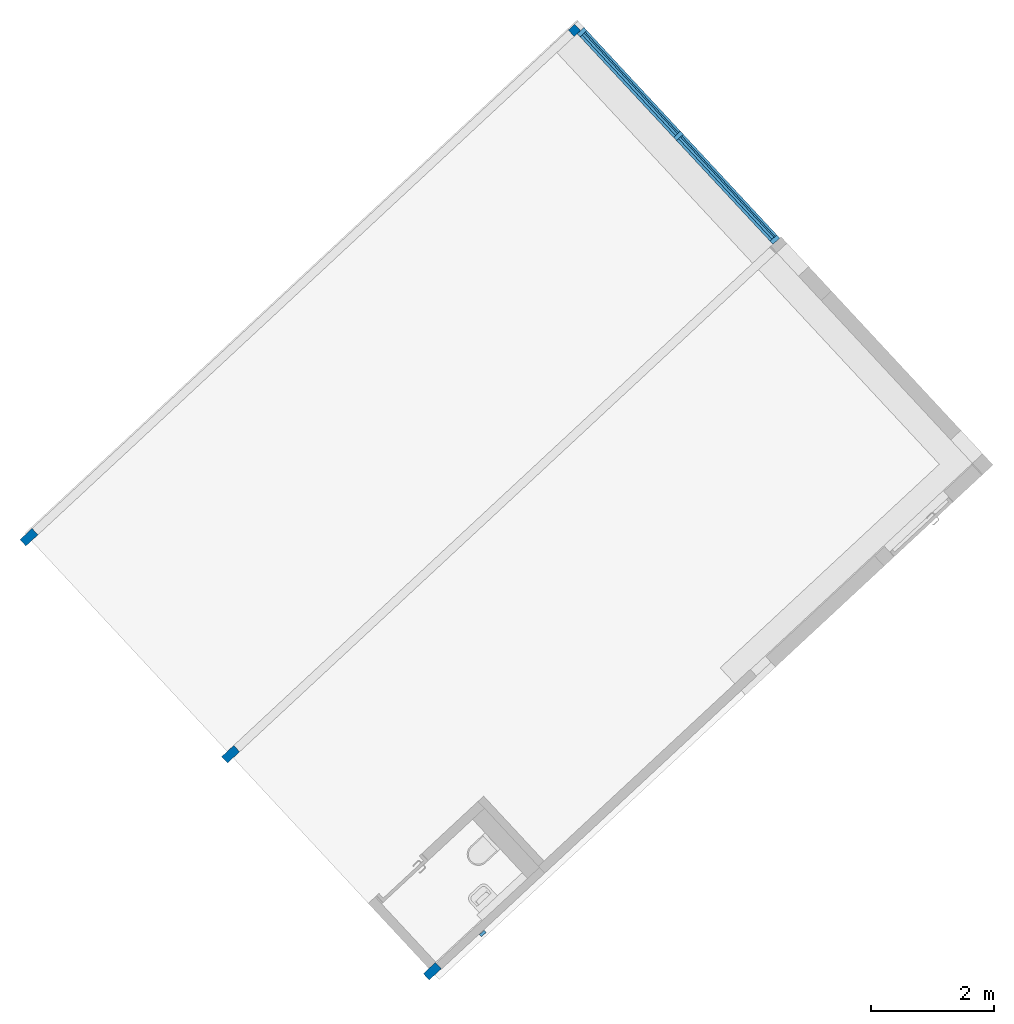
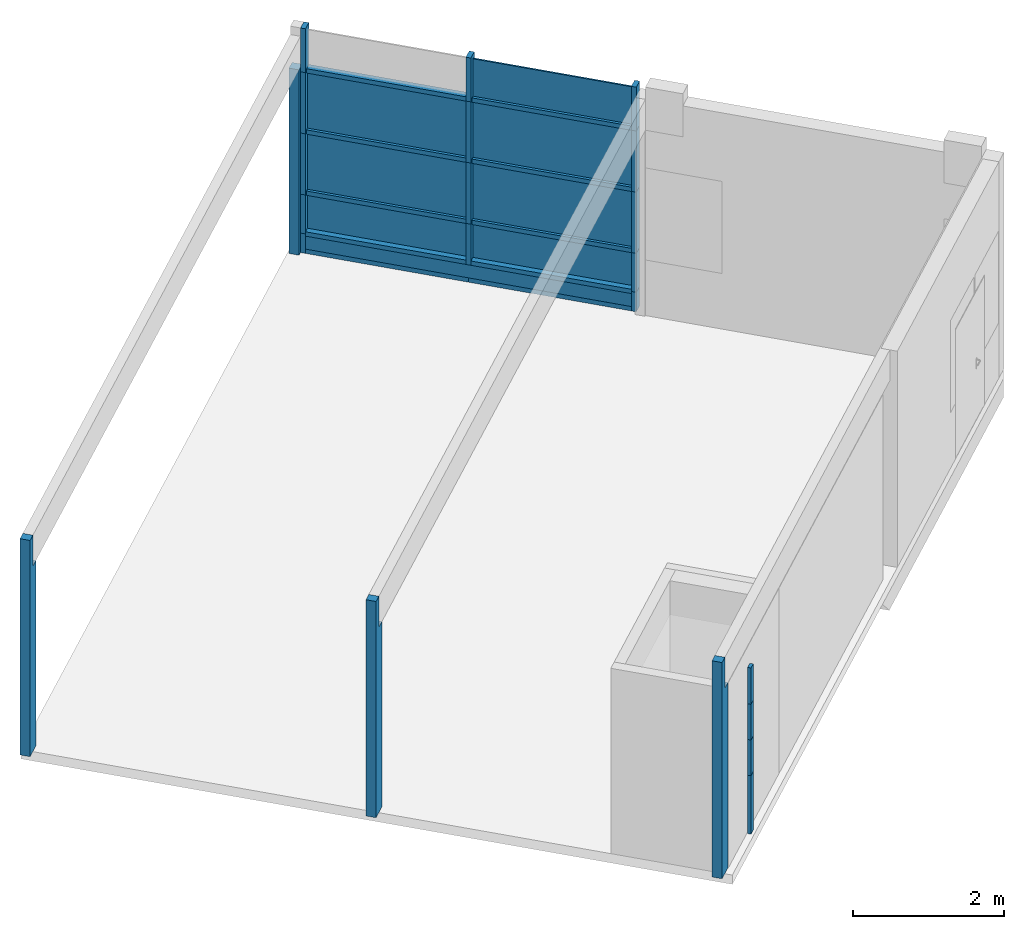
# One storey, part 2 of 7: 28 members, 8 plates, 4 columns, 2 elements without a shape of their own.
"""IFC2X3 building model written with IfcOpenShell, lengths in millimetres."""

from ifc_helpers import new_model, entity, si_unit, converted_unit, derived_unit, direction, frame, frame_2d, origin, origin_with_axes, origin_2d_with_axis, place, context, subcontext, project, spatial, rectangle, extrude, faceted_brep, source, transform, mapped, material, type_object, element, aggregate, save


model = new_model("IFC2X3")

# Units and contexts
model_context = context("Model", 3, precision=0.01, world=origin(), true_north=direction((6.12323399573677e-17, 1.0)))
plan_context = context("Plan", 3, precision=1e-05, world=origin_with_axes())
body_context = subcontext(model_context, "Body", "Model", "MODEL_VIEW")
ifc_project = project(units=[converted_unit("PLANEANGLEUNIT", "DEGREE", entity("IfcPositiveLengthMeasure", 0.0174532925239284), si_unit("PLANEANGLEUNIT", "RADIAN"), dimensions=[0, 0, 0, 0, 0, 0, 0]), si_unit("AREAUNIT", "SQUARE_METRE"), si_unit("LENGTHUNIT", "METRE", prefix="MILLI"), si_unit("MASSUNIT", "GRAM", prefix="KILO"), si_unit("POWERUNIT", "WATT"), si_unit("PRESSUREUNIT", "PASCAL", prefix="KILO"), si_unit("FORCEUNIT", "NEWTON", prefix="KILO"), si_unit("ELECTRICVOLTAGEUNIT", "VOLT"), si_unit("ELECTRICCURRENTUNIT", "AMPERE"), si_unit("THERMODYNAMICTEMPERATUREUNIT", "DEGREE_CELSIUS"), si_unit("TIMEUNIT", "SECOND"), si_unit("VOLUMEUNIT", "CUBIC_METRE"), derived_unit("LINEARVELOCITYUNIT", [(si_unit("LENGTHUNIT", "METRE"), 1), (si_unit("TIMEUNIT", "SECOND"), -1)]), derived_unit("VOLUMETRICFLOWRATEUNIT", [(si_unit("VOLUMEUNIT", "CUBIC_METRE"), 1), (si_unit("TIMEUNIT", "SECOND"), -1)]), derived_unit("THERMALTRANSMITTANCEUNIT", [(si_unit("POWERUNIT", "WATT"), 1), (si_unit("THERMODYNAMICTEMPERATUREUNIT", "KELVIN"), -1), (si_unit("AREAUNIT", "SQUARE_METRE"), -1)]), derived_unit("SOUNDPRESSUREUNIT", [(si_unit("PRESSUREUNIT", "PASCAL"), 1)])], contexts=[model_context, plan_context])

# Site, building, storey
site_placement = place(None, frame((159880.25068742, 140851.808625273, 0.0), z_axis=(0.0, 0.0, 1.0), x_axis=(-0.680735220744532, 0.732529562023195, 0.0)))
site = spatial("IfcSite", under=ifc_project, at=site_placement, Name="Default", CompositionType="ELEMENT")
building_placement = place(site_placement, origin_with_axes())
building = spatial("IfcBuilding", under=site, at=building_placement, CompositionType="ELEMENT")
storey_placement = place(building_placement, frame((0.0, 0.0, 4900.0), z_axis=(0.0, 0.0, 1.0), x_axis=(1.0, 0.0, 0.0)))
storey = spatial("IfcBuildingStorey", under=building, at=storey_placement, Name="001-01", CompositionType="ELEMENT", Elevation=4900.0)

# Columns
ifc_material_1 = material(Name="TIMBER/C30")
column_type_1 = type_object("IfcColumnType", Name="140*140:140*140", PredefinedType="COLUMN", material=ifc_material_1)
shared_shape_1 = source(origin(), body_context, "Body", "SweptSolid", [
    extrude(rectangle(XDim=140.000000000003, YDim=140.0, at=origin_2d_with_axis()), frame((57600.0000007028, 0.0, 4900.00000000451)), (0.0, 0.0, 1.0), 3000.0),
])
column_1_placement = place(storey_placement, frame((0.0, 0.0, -4900.0), z_axis=(0.0, 0.0, 1.0), x_axis=(1.0, 0.0, 0.0)))
element("IfcColumn", 1, at=column_1_placement, inside=storey, type_object=column_type_1, material=ifc_material_1, Name="140*140:140*140", ObjectType="140*140:140*140", context=body_context, shape_type="MappedRepresentation", body=[
    mapped(shared_shape_1, transform((0.0, 0.0, 0.0), scale=1.0)),
])
column_type_2 = type_object("IfcColumnType", Name="267*140 51386:267*140 51386", PredefinedType="COLUMN", material=ifc_material_1)
column_2_placement = place(storey_placement, frame((0.0, 0.0, -4900.0), z_axis=(0.0, 0.0, 1.0), x_axis=(1.0, 0.0, 0.0)))
element("IfcColumn", 2, at=column_2_placement, inside=storey, type_object=column_type_2, Name="267*140 51386:267*140 51386", ObjectType="267*140 51386:267*140 51386", context=body_context, shape_type="Brep", body=[
    faceted_brep([(47930.0000007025, 11931.4999999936, 4900.00000000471), (48070.0000007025, 11931.4999999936, 4900.00000000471), (48070.0000007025, 12198.4999999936, 4900.00000000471), (47930.0000007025, 12198.4999999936, 4900.00000000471), (48070.0000007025, 12198.4999999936, 8400.0), (47930.0000007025, 12198.4999999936, 8400.0), (47930.0000007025, 12069.999999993, 8400.0), (48070.0000007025, 12069.999999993, 8400.0), (48070.0000007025, 12069.999999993, 7899.9999435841), (47930.0000007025, 12069.999999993, 7899.9999435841), (48070.0000007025, 11931.4999999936, 7899.9999435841), (47930.0000007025, 11931.4999999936, 7899.9999435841)], [[[0, 1, 2, 3]], [[4, 5, 3, 2]], [[6, 7, 8, 9]], [[9, 8, 10, 11]], [[11, 10, 1, 0]], [[5, 6, 9, 11, 0, 3]], [[7, 4, 2, 1, 10, 8]], [[7, 6, 5, 4]]], orient=[[False], [False], [False], [False], [False], [False], [False], [False]]),
])
column_type_3 = type_object("IfcColumnType", Name="267*140 51386:267*140 51386", PredefinedType="COLUMN", material=ifc_material_1)
column_3_placement = place(storey_placement, frame((0.0, 0.0, -4900.0), z_axis=(0.0, 0.0, 1.0), x_axis=(1.0, 0.0, 0.0)))
element("IfcColumn", 3, at=column_3_placement, inside=storey, type_object=column_type_3, Name="267*140 51386:267*140 51386", ObjectType="267*140 51386:267*140 51386", context=body_context, shape_type="Brep", body=[
    faceted_brep([(52730.0000007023, 11931.4999999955, 4900.00000000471), (52870.0000007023, 11931.4999999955, 4900.00000000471), (52870.0000007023, 12198.4999999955, 4900.00000000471), (52730.0000007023, 12198.4999999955, 4900.00000000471), (52870.0000007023, 12198.4999999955, 8400.0), (52730.0000007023, 12198.4999999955, 8400.0), (52730.0000007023, 12069.9999999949, 8400.0), (52870.0000007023, 12069.9999999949, 8400.0), (52870.0000007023, 12069.9999999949, 7899.9999435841), (52730.0000007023, 12069.9999999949, 7899.9999435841), (52870.0000007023, 11931.4999999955, 7899.9999435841), (52730.0000007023, 11931.4999999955, 7899.9999435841)], [[[0, 1, 2, 3]], [[4, 5, 3, 2]], [[6, 7, 8, 9]], [[9, 8, 10, 11]], [[11, 10, 1, 0]], [[5, 6, 9, 11, 0, 3]], [[7, 4, 2, 1, 10, 8]], [[7, 6, 5, 4]]], orient=[[False], [False], [False], [False], [False], [False], [False], [False]]),
])
column_type_4 = type_object("IfcColumnType", Name="267*140 51386:267*140 51386", PredefinedType="COLUMN", material=ifc_material_1)
column_4_placement = place(storey_placement, frame((0.0, 0.0, -4900.0), z_axis=(0.0, 0.0, 1.0), x_axis=(1.0, 0.0, 0.0)))
element("IfcColumn", 4, at=column_4_placement, inside=storey, type_object=column_type_4, Name="267*140 51386:267*140 51386", ObjectType="267*140 51386:267*140 51386", context=body_context, shape_type="Brep", body=[
    faceted_brep([(57530.0000007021, 11931.4999999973, 4900.00000000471), (57670.0000007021, 11931.4999999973, 4900.00000000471), (57670.0000007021, 12198.4999999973, 4900.00000000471), (57530.0000007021, 12198.4999999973, 4900.00000000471), (57670.0000007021, 12198.4999999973, 8400.0), (57530.0000007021, 12198.4999999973, 8400.0), (57530.0000007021, 12069.9999999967, 8400.0), (57670.0000007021, 12069.9999999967, 8400.0), (57670.0000007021, 12069.9999999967, 7899.9999435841), (57530.0000007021, 12069.9999999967, 7899.9999435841), (57670.0000007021, 11931.4999999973, 7899.9999435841), (57530.0000007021, 11931.4999999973, 7899.9999435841)], [[[0, 1, 2, 3]], [[4, 5, 3, 2]], [[6, 7, 8, 9]], [[9, 8, 10, 11]], [[11, 10, 1, 0]], [[5, 6, 9, 11, 0, 3]], [[7, 4, 2, 1, 10, 8]], [[7, 6, 5, 4]]], orient=[[False], [False], [False], [False], [False], [False], [False], [False]]),
])

# Curtain wall, members
curtain_wall_type_1 = type_object("IfcCurtainWallType", Name="Curtain Wall:Curtain Wall 1", PredefinedType="NOTDEFINED")
curtain_wall_1_placement = place(storey_placement, frame((0.0, 0.0, -4900.0), z_axis=(0.0, 0.0, 1.0), x_axis=(1.0, 0.0, 0.0)))
curtain_wall_1 = element("IfcCurtainWall", 5, at=curtain_wall_1_placement, inside=storey, type_object=curtain_wall_type_1, Name="Curtain Wall:Curtain Wall 1", ObjectType="Curtain Wall:Curtain Wall 1")
ifc_material_2 = material(Name="Aluminium")
member_type_1 = type_object("IfcMemberType", Name="Rectangular Mullion:70x105mm Aluminium", PredefinedType="MULLION", material=ifc_material_2)
shared_shape_2 = source(origin(), body_context, "Body", "SweptSolid", [
    extrude(rectangle(XDim=70.0, YDim=105.0, at=origin_2d_with_axis()), frame((0.0, 22.5, -2225.0), z_axis=(0.0, 0.0, 1.0), x_axis=(-1.0, 0.0, 0.0)), (0.0, 0.0, 1.0), 2224.99999999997),
])
member_1_placement = place(curtain_wall_1_placement, frame((55165.0, -71.0000000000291, 6835.0), z_axis=(1.0, 0.0, 0.0), x_axis=(0.0, 0.0, 1.0)))
member_1 = element("IfcMember", 6, at=member_1_placement, type_object=member_type_1, material=ifc_material_2, Name="Rectangular Mullion:70x105mm Aluminium", ObjectType="Rectangular Mullion:70x105mm Aluminium", context=body_context, shape_type="MappedRepresentation", body=[
    mapped(shared_shape_2, transform((0.0, 0.0, 0.0), scale=1.0)),
])
member_2_placement = place(curtain_wall_1_placement, frame((57460.0, -71.0000000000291, 7825.0), z_axis=(1.0, 0.0, 0.0), x_axis=(0.0, 0.0, 1.0)))
member_2 = element("IfcMember", 7, at=member_2_placement, type_object=member_type_1, material=ifc_material_2, Name="Rectangular Mullion:70x105mm Aluminium", ObjectType="Rectangular Mullion:70x105mm Aluminium", context=body_context, shape_type="MappedRepresentation", body=[
    mapped(shared_shape_2, transform((0.0, 0.0, 0.0), scale=1.0)),
])
member_3_placement = place(curtain_wall_1_placement, frame((57460.0, -71.0000000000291, 5845.0), z_axis=(1.0, 0.0, 0.0), x_axis=(0.0, 0.0, 1.0)))
member_3 = element("IfcMember", 8, at=member_3_placement, type_object=member_type_1, material=ifc_material_2, Name="Rectangular Mullion:70x105mm Aluminium", ObjectType="Rectangular Mullion:70x105mm Aluminium", context=body_context, shape_type="MappedRepresentation", body=[
    mapped(shared_shape_2, transform((0.0, 0.0, 0.0), scale=1.0)),
])
member_4_placement = place(curtain_wall_1_placement, frame((55165.0, -71.0000000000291, 7825.0), z_axis=(1.0, 0.0, 0.0), x_axis=(0.0, 0.0, 1.0)))
member_4 = element("IfcMember", 9, at=member_4_placement, type_object=member_type_1, material=ifc_material_2, Name="Rectangular Mullion:70x105mm Aluminium", ObjectType="Rectangular Mullion:70x105mm Aluminium", context=body_context, shape_type="MappedRepresentation", body=[
    mapped(shared_shape_2, transform((0.0, 0.0, 0.0), scale=1.0)),
])
member_5_placement = place(curtain_wall_1_placement, frame((55165.0, -71.0000000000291, 5845.0), z_axis=(1.0, 0.0, 0.0), x_axis=(0.0, 0.0, 1.0)))
member_5 = element("IfcMember", 10, at=member_5_placement, type_object=member_type_1, material=ifc_material_2, Name="Rectangular Mullion:70x105mm Aluminium", ObjectType="Rectangular Mullion:70x105mm Aluminium", context=body_context, shape_type="MappedRepresentation", body=[
    mapped(shared_shape_2, transform((0.0, 0.0, 0.0), scale=1.0)),
])
member_6_placement = place(curtain_wall_1_placement, frame((57460.0, -71.0000000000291, 6835.0), z_axis=(1.0, 0.0, 0.0), x_axis=(0.0, 0.0, 1.0)))
member_6 = element("IfcMember", 11, at=member_6_placement, type_object=member_type_1, material=ifc_material_2, Name="Rectangular Mullion:70x105mm Aluminium", ObjectType="Rectangular Mullion:70x105mm Aluminium", context=body_context, shape_type="MappedRepresentation", body=[
    mapped(shared_shape_2, transform((0.0, 0.0, 0.0), scale=1.0)),
])
member_type_2 = type_object("IfcMemberType", Name="Rectangular Mullion:70x150mm Aluminium", PredefinedType="MULLION", material=ifc_material_2)
shared_shape_3 = source(origin(), body_context, "Body", "SweptSolid", [
    extrude(rectangle(XDim=70.0, YDim=150.0, at=origin_2d_with_axis()), frame((0.0, 0.0, -710.0), z_axis=(0.0, 0.0, 1.0), x_axis=(-1.0, 0.0, 0.0)), (0.0, 0.0, 1.0), 710.0),
])
member_7_placement = place(curtain_wall_1_placement, frame((57495.0, -71.0000000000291, 7825.0), z_axis=(0.0, 0.0, -1.0), x_axis=(1.0, 0.0, 0.0)))
member_7 = element("IfcMember", 12, at=member_7_placement, type_object=member_type_2, material=ifc_material_2, Name="Rectangular Mullion:70x150mm Aluminium", ObjectType="Rectangular Mullion:70x150mm Aluminium", context=body_context, shape_type="MappedRepresentation", body=[
    mapped(shared_shape_3, transform((0.0, 0.0, 0.0), scale=1.0)),
])
member_8_placement = place(curtain_wall_1_placement, frame((55200.0, -71.0000000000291, 7825.0), z_axis=(0.0, 0.0, -1.0), x_axis=(1.0, 0.0, 0.0)))
member_8 = element("IfcMember", 13, at=member_8_placement, type_object=member_type_2, material=ifc_material_2, Name="Rectangular Mullion:70x150mm Aluminium", ObjectType="Rectangular Mullion:70x150mm Aluminium", context=body_context, shape_type="MappedRepresentation", body=[
    mapped(shared_shape_3, transform((0.0, 0.0, 0.0), scale=1.0)),
])
member_type_3 = type_object("IfcMemberType", Name="Rectangular Mullion:70x150mm Aluminium", PredefinedType="MULLION", material=ifc_material_2)
shared_shape_4 = source(origin(), body_context, "Body", "SweptSolid", [
    extrude(rectangle(XDim=70.0, YDim=150.0, at=origin_2d_with_axis()), frame((0.0, 0.0, -990.0), z_axis=(0.0, 0.0, 1.0), x_axis=(-1.0, 0.0, 0.0)), (0.0, 0.0, 1.0), 990.0),
])
member_9_placement = place(curtain_wall_1_placement, frame((57495.0, -71.0000000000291, 5845.0), z_axis=(0.0, 0.0, -1.0), x_axis=(1.0, 0.0, 0.0)))
member_9 = element("IfcMember", 14, at=member_9_placement, type_object=member_type_3, material=ifc_material_2, Name="Rectangular Mullion:70x150mm Aluminium", ObjectType="Rectangular Mullion:70x150mm Aluminium", context=body_context, shape_type="MappedRepresentation", body=[
    mapped(shared_shape_4, transform((0.0, 0.0, 0.0), scale=1.0)),
])
member_10_placement = place(curtain_wall_1_placement, frame((57495.0, -71.0000000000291, 6835.0), z_axis=(0.0, 0.0, -1.0), x_axis=(1.0, 0.0, 0.0)))
member_10 = element("IfcMember", 15, at=member_10_placement, type_object=member_type_3, material=ifc_material_2, Name="Rectangular Mullion:70x150mm Aluminium", ObjectType="Rectangular Mullion:70x150mm Aluminium", context=body_context, shape_type="MappedRepresentation", body=[
    mapped(shared_shape_4, transform((0.0, 0.0, 0.0), scale=1.0)),
])
member_11_placement = place(curtain_wall_1_placement, frame((55200.0, -71.0000000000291, 6835.0), z_axis=(0.0, 0.0, -1.0), x_axis=(1.0, 0.0, 0.0)))
member_11 = element("IfcMember", 16, at=member_11_placement, type_object=member_type_3, material=ifc_material_2, Name="Rectangular Mullion:70x150mm Aluminium", ObjectType="Rectangular Mullion:70x150mm Aluminium", context=body_context, shape_type="MappedRepresentation", body=[
    mapped(shared_shape_4, transform((0.0, 0.0, 0.0), scale=1.0)),
])
member_12_placement = place(curtain_wall_1_placement, frame((55200.0, -71.0000000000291, 5845.0), z_axis=(0.0, 0.0, -1.0), x_axis=(1.0, 0.0, 0.0)))
member_12 = element("IfcMember", 17, at=member_12_placement, type_object=member_type_3, material=ifc_material_2, Name="Rectangular Mullion:70x150mm Aluminium", ObjectType="Rectangular Mullion:70x150mm Aluminium", context=body_context, shape_type="MappedRepresentation", body=[
    mapped(shared_shape_4, transform((0.0, 0.0, 0.0), scale=1.0)),
])
member_type_4 = type_object("IfcMemberType", Name="Rectangular Mullion:70x150mm Aluminium", PredefinedType="MULLION", material=ifc_material_2)
shared_shape_5 = source(origin(), body_context, "Body", "SweptSolid", [
    extrude(rectangle(XDim=70.0, YDim=150.0, at=origin_2d_with_axis()), frame((-35.0, 0.0, -2260.0), z_axis=(0.0, 0.0, 1.0), x_axis=(-1.0, 0.0, 0.0)), (0.0, 0.0, 1.0), 2259.99999999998),
])
member_13_placement = place(curtain_wall_1_placement, frame((55200.0, -71.0000000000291, 4900.0), z_axis=(-1.0, 0.0, 0.0), x_axis=(0.0, 0.0, -1.0)))
member_13 = element("IfcMember", 18, at=member_13_placement, type_object=member_type_4, material=ifc_material_2, Name="Rectangular Mullion:70x150mm Aluminium", ObjectType="Rectangular Mullion:70x150mm Aluminium", context=body_context, shape_type="MappedRepresentation", body=[
    mapped(shared_shape_5, transform((0.0, 0.0, 0.0), scale=1.0)),
])
member_type_5 = type_object("IfcMemberType", Name="Rectangular Mullion:70x150mm Aluminium", PredefinedType="MULLION", material=ifc_material_2)
member_14_placement = place(curtain_wall_1_placement, frame((52940.0, -71.0000000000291, 4900.0), z_axis=(-1.0, 0.0, 0.0), x_axis=(0.0, 0.0, -1.0)))
member_14 = element("IfcMember", 19, at=member_14_placement, type_object=member_type_5, material=ifc_material_2, Name="Rectangular Mullion:70x150mm Aluminium", ObjectType="Rectangular Mullion:70x150mm Aluminium", context=body_context, shape_type="MappedRepresentation", body=[
    mapped(shared_shape_5, transform((0.0, 0.0, 0.0), scale=1.0)),
])
member_type_6 = type_object("IfcMemberType", Name="Rectangular Mullion:70x150mm Aluminium", PredefinedType="MULLION", material=ifc_material_2)
shared_shape_6 = source(origin(), body_context, "Body", "SweptSolid", [
    extrude(rectangle(XDim=70.0, YDim=150.0, at=origin_2d_with_axis()), frame((0.0, 0.0, -315.0), z_axis=(0.0, 0.0, 1.0), x_axis=(-1.0, 0.0, 0.0)), (0.0, 0.0, 1.0), 315.0),
])
member_15_placement = place(curtain_wall_1_placement, frame((57495.0, -71.0000000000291, 4900.0), z_axis=(0.0, 0.0, -1.0), x_axis=(1.0, 0.0, 0.0)))
member_15 = element("IfcMember", 20, at=member_15_placement, type_object=member_type_6, material=ifc_material_2, Name="Rectangular Mullion:70x150mm Aluminium", ObjectType="Rectangular Mullion:70x150mm Aluminium", context=body_context, shape_type="MappedRepresentation", body=[
    mapped(shared_shape_6, transform((0.0, 0.0, 0.0), scale=1.0)),
])
member_type_7 = type_object("IfcMemberType", Name="Rectangular Mullion:70x150mm Aluminium", PredefinedType="MULLION", material=ifc_material_2)
shared_shape_7 = source(origin(), body_context, "Body", "SweptSolid", [
    extrude(rectangle(XDim=70.0, YDim=150.0, at=origin_2d_with_axis()), frame((-35.0, 0.0, -990.0), z_axis=(0.0, 0.0, 1.0), x_axis=(-1.0, 0.0, 0.0)), (0.0, 0.0, 1.0), 990.0),
])
member_16_placement = place(curtain_wall_1_placement, frame((52870.0, -71.0000000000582, 6835.0), z_axis=(0.0, 0.0, 1.0), x_axis=(-1.0, 0.0, 0.0)))
member_16 = element("IfcMember", 21, at=member_16_placement, type_object=member_type_7, material=ifc_material_2, Name="Rectangular Mullion:70x150mm Aluminium", ObjectType="Rectangular Mullion:70x150mm Aluminium", context=body_context, shape_type="MappedRepresentation", body=[
    mapped(shared_shape_7, transform((0.0, 0.0, 0.0), scale=1.0)),
])
member_17_placement = place(curtain_wall_1_placement, frame((52870.0, -71.0000000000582, 7825.0), z_axis=(0.0, 0.0, 1.0), x_axis=(-1.0, 0.0, 0.0)))
member_17 = element("IfcMember", 22, at=member_17_placement, type_object=member_type_7, material=ifc_material_2, Name="Rectangular Mullion:70x150mm Aluminium", ObjectType="Rectangular Mullion:70x150mm Aluminium", context=body_context, shape_type="MappedRepresentation", body=[
    mapped(shared_shape_7, transform((0.0, 0.0, 0.0), scale=1.0)),
])
member_type_8 = type_object("IfcMemberType", Name="Rectangular Mullion:70x150mm Aluminium", PredefinedType="MULLION", material=ifc_material_2)
shared_shape_8 = source(origin(), body_context, "Body", "SweptSolid", [
    extrude(rectangle(XDim=70.0, YDim=150.0, at=origin_2d_with_axis()), frame((-35.0, 0.0, -630.0), z_axis=(0.0, 0.0, 1.0), x_axis=(-1.0, 0.0, 0.0)), (0.0, 0.0, 1.0), 630.0),
])
member_18_placement = place(curtain_wall_1_placement, frame((52870.0, -71.0000000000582, 5845.0), z_axis=(0.0, 0.0, 1.0), x_axis=(-1.0, 0.0, 0.0)))
member_18 = element("IfcMember", 23, at=member_18_placement, type_object=member_type_8, material=ifc_material_2, Name="Rectangular Mullion:70x150mm Aluminium", ObjectType="Rectangular Mullion:70x150mm Aluminium", context=body_context, shape_type="MappedRepresentation", body=[
    mapped(shared_shape_8, transform((0.0, 0.0, 0.0), scale=1.0)),
])
member_type_9 = type_object("IfcMemberType", Name="Rectangular Mullion:70x150mm Aluminium", PredefinedType="MULLION", material=ifc_material_2)
shared_shape_9 = source(origin(), body_context, "Body", "SweptSolid", [
    extrude(rectangle(XDim=70.0, YDim=150.0, at=origin_2d_with_axis()), frame((0.0, 0.0, -665.0), z_axis=(0.0, 0.0, 1.0), x_axis=(-1.0, 0.0, 0.0)), (0.0, 0.0, 1.0), 665.0),
])
member_19_placement = place(curtain_wall_1_placement, frame((55200.0, -71.0000000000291, 5180.0), z_axis=(0.0, 0.0, -1.0), x_axis=(1.0, 0.0, 0.0)))
member_19 = element("IfcMember", 24, at=member_19_placement, type_object=member_type_9, material=ifc_material_2, Name="Rectangular Mullion:70x150mm Aluminium", ObjectType="Rectangular Mullion:70x150mm Aluminium", context=body_context, shape_type="MappedRepresentation", body=[
    mapped(shared_shape_9, transform((0.0, 0.0, 0.0), scale=1.0)),
])
member_type_10 = type_object("IfcMemberType", Name="Rectangular Mullion:70x150mm Aluminium", PredefinedType="MULLION", material=ifc_material_2)
shared_shape_10 = source(origin(), body_context, "Body", "SweptSolid", [
    extrude(rectangle(XDim=70.0, YDim=150.0, at=origin_2d_with_axis()), frame((0.0, 0.0, -630.0), z_axis=(0.0, 0.0, 1.0), x_axis=(-1.0, 0.0, 0.0)), (0.0, 0.0, 1.0), 630.0),
])
member_20_placement = place(curtain_wall_1_placement, frame((57495.0, -71.0000000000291, 5215.0), z_axis=(0.0, 0.0, -1.0), x_axis=(1.0, 0.0, 0.0)))
member_20 = element("IfcMember", 25, at=member_20_placement, type_object=member_type_10, material=ifc_material_2, Name="Rectangular Mullion:70x150mm Aluminium", ObjectType="Rectangular Mullion:70x150mm Aluminium", context=body_context, shape_type="MappedRepresentation", body=[
    mapped(shared_shape_10, transform((0.0, 0.0, 0.0), scale=1.0)),
])
member_type_11 = type_object("IfcMemberType", Name="Rectangular Mullion:70x150mm Aluminium", PredefinedType="MULLION", material=ifc_material_2)
shared_shape_11 = source(origin(), body_context, "Body", "SweptSolid", [
    extrude(rectangle(XDim=70.0, YDim=150.0, at=origin_2d_with_axis()), frame((-35.0, 0.0, -315.0), z_axis=(0.0, 0.0, 1.0), x_axis=(-1.0, 0.0, 0.0)), (0.0, 0.0, 1.0), 315.0),
])
member_21_placement = place(curtain_wall_1_placement, frame((52870.0, -71.0000000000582, 5215.0), z_axis=(0.0, 0.0, 1.0), x_axis=(-1.0, 0.0, 0.0)))
member_21 = element("IfcMember", 26, at=member_21_placement, type_object=member_type_11, material=ifc_material_2, Name="Rectangular Mullion:70x150mm Aluminium", ObjectType="Rectangular Mullion:70x150mm Aluminium", context=body_context, shape_type="MappedRepresentation", body=[
    mapped(shared_shape_11, transform((0.0, 0.0, 0.0), scale=1.0)),
])
member_type_12 = type_object("IfcMemberType", Name="Rectangular Mullion:70x150mm Aluminium", PredefinedType="MULLION", material=ifc_material_2)
shared_shape_12 = source(origin(), body_context, "Body", "SweptSolid", [
    extrude(rectangle(XDim=70.0, YDim=150.0, at=origin_2d_with_axis()), frame((0.0, 0.0, -2225.0), z_axis=(0.0, 0.0, 1.0), x_axis=(-1.0, 0.0, 0.0)), (0.0, 0.0, 1.0), 2224.99999999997),
])
member_22_placement = place(curtain_wall_1_placement, frame((57460.0, -71.0000000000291, 5215.0), z_axis=(1.0, 0.0, 0.0), x_axis=(0.0, 0.0, 1.0)))
member_22 = element("IfcMember", 27, at=member_22_placement, type_object=member_type_12, material=ifc_material_2, Name="Rectangular Mullion:70x150mm Aluminium", ObjectType="Rectangular Mullion:70x150mm Aluminium", context=body_context, shape_type="MappedRepresentation", body=[
    mapped(shared_shape_12, transform((0.0, 0.0, 0.0), scale=1.0)),
])
member_23_placement = place(curtain_wall_1_placement, frame((55165.0, -71.0000000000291, 5215.0), z_axis=(1.0, 0.0, 0.0), x_axis=(0.0, 0.0, 1.0)))
member_23 = element("IfcMember", 28, at=member_23_placement, type_object=member_type_12, material=ifc_material_2, Name="Rectangular Mullion:70x150mm Aluminium", ObjectType="Rectangular Mullion:70x150mm Aluminium", context=body_context, shape_type="MappedRepresentation", body=[
    mapped(shared_shape_12, transform((0.0, 0.0, 0.0), scale=1.0)),
])
member_type_13 = type_object("IfcMemberType", Name="Rectangular Mullion:70x150mm Aluminium", PredefinedType="MULLION", material=ifc_material_2)
shared_shape_13 = source(origin(), body_context, "Body", "SweptSolid", [
    extrude(rectangle(XDim=70.0, YDim=150.0, at=origin_2d_with_axis()), frame((-35.0, 0.0, -710.0), z_axis=(0.0, 0.0, 1.0), x_axis=(-1.0, 0.0, 0.0)), (0.0, 0.0, 1.0), 710.0),
])
member_24_placement = place(curtain_wall_1_placement, frame((52870.0, -71.0000000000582, 8535.0), z_axis=(0.0, 0.0, 1.0), x_axis=(-1.0, 0.0, 0.0)))
member_24 = element("IfcMember", 29, at=member_24_placement, type_object=member_type_13, material=ifc_material_2, Name="Rectangular Mullion:70x150mm Aluminium", ObjectType="Rectangular Mullion:70x150mm Aluminium", context=body_context, shape_type="MappedRepresentation", body=[
    mapped(shared_shape_13, transform((0.0, 0.0, 0.0), scale=1.0)),
])

curtain_wall_type_2 = type_object("IfcCurtainWallType", Name="Curtain Wall:Curtain Wall (24dB)", PredefinedType="NOTDEFINED")
curtain_wall_2_placement = place(storey_placement, frame((0.0, 0.0, -4900.0), z_axis=(0.0, 0.0, 1.0), x_axis=(1.0, 0.0, 0.0)))
curtain_wall_2 = element("IfcCurtainWall", 30, at=curtain_wall_2_placement, inside=storey, type_object=curtain_wall_type_2, Name="Curtain Wall:Curtain Wall (24dB)", ObjectType="Curtain Wall:Curtain Wall (24dB)")
member_type_14 = type_object("IfcMemberType", Name="Rectangular Mullion:50x100mm Aluminium", PredefinedType="MULLION", material=ifc_material_2)
shared_shape_14 = source(origin(), body_context, "Body", "SweptSolid", [
    extrude(rectangle(XDim=50.0, YDim=100.0, at=origin_2d_with_axis()), frame((-25.0, 0.0, -590.0), z_axis=(0.0, 0.0, 1.0), x_axis=(-1.0, 0.0, 0.0)), (0.0, 0.0, 1.0), 590.0),
])
member_25_placement = place(curtain_wall_2_placement, frame((47916.0, 11050.0, 7590.0), z_axis=(0.0, 0.0, 1.0), x_axis=(1.0, 0.0, 0.0)))
member_25 = element("IfcMember", 31, at=member_25_placement, type_object=member_type_14, material=ifc_material_2, Name="Rectangular Mullion:50x100mm Aluminium", ObjectType="Rectangular Mullion:50x100mm Aluminium", context=body_context, shape_type="MappedRepresentation", body=[
    mapped(shared_shape_14, transform((0.0, 0.0, 0.0), scale=1.0)),
])
member_type_15 = type_object("IfcMemberType", Name="Rectangular Mullion:50x100mm Aluminium", PredefinedType="MULLION", material=ifc_material_2)
shared_shape_15 = source(origin(), body_context, "Body", "SweptSolid", [
    extrude(rectangle(XDim=50.0, YDim=100.0, at=frame_2d((0.0, -7.105427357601e-15), x_axis=(1.0, 0.0))), frame((-25.0, 0.0, -945.0), z_axis=(0.0, 0.0, 1.0), x_axis=(-1.0, 0.0, 0.0)), (0.0, 0.0, 1.0), 945.0),
])
member_26_placement = place(curtain_wall_2_placement, frame((47916.0, 11050.0, 5845.0), z_axis=(0.0, 0.0, 1.0), x_axis=(1.0, 0.0, 0.0)))
member_26 = element("IfcMember", 32, at=member_26_placement, type_object=member_type_15, material=ifc_material_2, Name="Rectangular Mullion:50x100mm Aluminium", ObjectType="Rectangular Mullion:50x100mm Aluminium", context=body_context, shape_type="MappedRepresentation", body=[
    mapped(shared_shape_15, transform((0.0, 0.0, 0.0), scale=1.0)),
])
member_type_16 = type_object("IfcMemberType", Name="Rectangular Mullion:50x100mm Aluminium", PredefinedType="MULLION", material=ifc_material_2)
shared_shape_16 = source(origin(), body_context, "Body", "SweptSolid", [
    extrude(rectangle(XDim=50.0, YDim=100.0, at=frame_2d((0.0, 3.5527136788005e-15), x_axis=(1.0, 0.0))), frame((-25.0, 0.0, -577.500000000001), z_axis=(0.0, 0.0, 1.0), x_axis=(-1.0, 0.0, 0.0)), (0.0, 0.0, 1.0), 577.500000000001),
])
member_27_placement = place(curtain_wall_2_placement, frame((47916.0, 11050.0, 7000.0), z_axis=(0.0, 0.0, 1.0), x_axis=(1.0, 0.0, 0.0)))
member_27 = element("IfcMember", 33, at=member_27_placement, type_object=member_type_16, material=ifc_material_2, Name="Rectangular Mullion:50x100mm Aluminium", ObjectType="Rectangular Mullion:50x100mm Aluminium", context=body_context, shape_type="MappedRepresentation", body=[
    mapped(shared_shape_16, transform((0.0, 0.0, 0.0), scale=1.0)),
])
member_type_17 = type_object("IfcMemberType", Name="Rectangular Mullion:50x100mm Aluminium", PredefinedType="MULLION", material=ifc_material_2)
shared_shape_17 = source(origin(), body_context, "Body", "SweptSolid", [
    extrude(rectangle(XDim=50.0, YDim=100.0, at=frame_2d((0.0, 3.5527136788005e-15), x_axis=(1.0, 0.0))), frame((-25.0, 0.0, -577.5), z_axis=(0.0, 0.0, 1.0), x_axis=(-1.0, 0.0, 0.0)), (0.0, 0.0, 1.0), 577.5),
])
member_28_placement = place(curtain_wall_2_placement, frame((47916.0, 11050.0, 6422.5), z_axis=(0.0, 0.0, 1.0), x_axis=(1.0, 0.0, 0.0)))
member_28 = element("IfcMember", 34, at=member_28_placement, type_object=member_type_17, material=ifc_material_2, Name="Rectangular Mullion:50x100mm Aluminium", ObjectType="Rectangular Mullion:50x100mm Aluminium", context=body_context, shape_type="MappedRepresentation", body=[
    mapped(shared_shape_17, transform((0.0, 0.0, 0.0), scale=1.0)),
])
aggregate(curtain_wall_2, [member_25, member_26, member_27, member_28])

# Plate
plate_type_1 = type_object("IfcPlateType", Name="System Panel:Tettfelt 150mm", PredefinedType="CURTAIN_PANEL", material=ifc_material_2)
shared_shape_18 = source(origin(), body_context, "Body", "SweptSolid", [
    extrude(rectangle(XDim=210.0, YDim=4519.99999999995, at=frame_2d((0.0, 1.13686837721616e-12), x_axis=(1.0, 0.0))), frame((0.0, -75.0, 105.0), z_axis=(0.0, 1.0, 0.0), x_axis=(0.0, 0.0, 1.0)), (0.0, 0.0, 1.0), 150.0),
])
plate_1_placement = place(curtain_wall_1_placement, frame((55200.0, -71.0000000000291, 4970.0), z_axis=(0.0, 0.0, 1.0), x_axis=(1.0, 0.0, 0.0)))
plate_1 = element("IfcPlate", 35, at=plate_1_placement, type_object=plate_type_1, material=ifc_material_2, Name="System Panel:Tettfelt 150mm", ObjectType="System Panel:Tettfelt 150mm", context=body_context, shape_type="MappedRepresentation", body=[
    mapped(shared_shape_18, transform((0.0, 0.0, 0.0), scale=1.0)),
])

ifc_material_3 = material(Name="Glass")
plate_type_2 = type_object("IfcPlateType", Name="System Panel:Glassfelt 25mm", PredefinedType="CURTAIN_PANEL", material=ifc_material_3)
shared_shape_19 = source(origin(), body_context, "Body", "SweptSolid", [
    extrude(rectangle(XDim=25.0, YDim=2224.99999999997, at=origin_2d_with_axis()), frame((1112.49999999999, 12.5, 0.0), z_axis=(0.0, 0.0, 1.0), x_axis=(0.0, 1.0, 0.0)), (0.0, 0.0, 1.0), 560.0),
])
plate_2_placement = place(curtain_wall_1_placement, frame((52940.0, -108.499999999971, 5250.0), z_axis=(0.0, 0.0, 1.0), x_axis=(1.0, 0.0, 0.0)))
plate_2 = element("IfcPlate", 36, at=plate_2_placement, type_object=plate_type_2, material=ifc_material_3, Name="System Panel:Glassfelt 25mm", ObjectType="System Panel:Glassfelt 25mm", context=body_context, shape_type="MappedRepresentation", body=[
    mapped(shared_shape_19, transform((0.0, 0.0, 0.0), scale=1.0)),
])

plate_3_placement = place(curtain_wall_1_placement, frame((55235.0, -108.499999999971, 5250.0), z_axis=(0.0, 0.0, 1.0), x_axis=(1.0, 0.0, 0.0)))
plate_3 = element("IfcPlate", 37, at=plate_3_placement, type_object=plate_type_2, material=ifc_material_3, Name="System Panel:Glassfelt 25mm", ObjectType="System Panel:Glassfelt 25mm", context=body_context, shape_type="MappedRepresentation", body=[
    mapped(shared_shape_19, transform((0.0, 0.0, 0.0), scale=1.0)),
])

plate_type_3 = type_object("IfcPlateType", Name="System Panel:Glassfelt 25mm", PredefinedType="CURTAIN_PANEL", material=ifc_material_3)
shared_shape_20 = source(origin(), body_context, "Body", "SweptSolid", [
    extrude(rectangle(XDim=25.0, YDim=2224.99999999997, at=origin_2d_with_axis()), frame((1112.49999999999, 12.5, 0.0), z_axis=(0.0, 0.0, 1.0), x_axis=(0.0, 1.0, 0.0)), (0.0, 0.0, 1.0), 920.000000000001),
])
plate_4_placement = place(curtain_wall_1_placement, frame((52940.0, -108.499999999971, 5880.0), z_axis=(0.0, 0.0, 1.0), x_axis=(1.0, 0.0, 0.0)))
plate_4 = element("IfcPlate", 38, at=plate_4_placement, type_object=plate_type_3, material=ifc_material_3, Name="System Panel:Glassfelt 25mm", ObjectType="System Panel:Glassfelt 25mm", context=body_context, shape_type="MappedRepresentation", body=[
    mapped(shared_shape_20, transform((0.0, 0.0, 0.0), scale=1.0)),
])

plate_5_placement = place(curtain_wall_1_placement, frame((55235.0, -108.499999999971, 5880.0), z_axis=(0.0, 0.0, 1.0), x_axis=(1.0, 0.0, 0.0)))
plate_5 = element("IfcPlate", 39, at=plate_5_placement, type_object=plate_type_3, material=ifc_material_3, Name="System Panel:Glassfelt 25mm", ObjectType="System Panel:Glassfelt 25mm", context=body_context, shape_type="MappedRepresentation", body=[
    mapped(shared_shape_20, transform((0.0, 0.0, 0.0), scale=1.0)),
])

plate_6_placement = place(curtain_wall_1_placement, frame((52940.0, -108.499999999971, 6870.0), z_axis=(0.0, 0.0, 1.0), x_axis=(1.0, 0.0, 0.0)))
plate_6 = element("IfcPlate", 40, at=plate_6_placement, type_object=plate_type_3, material=ifc_material_3, Name="System Panel:Glassfelt 25mm", ObjectType="System Panel:Glassfelt 25mm", context=body_context, shape_type="MappedRepresentation", body=[
    mapped(shared_shape_20, transform((0.0, 0.0, 0.0), scale=1.0)),
])

plate_7_placement = place(curtain_wall_1_placement, frame((55235.0, -108.499999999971, 6870.0), z_axis=(0.0, 0.0, 1.0), x_axis=(1.0, 0.0, 0.0)))
plate_7 = element("IfcPlate", 41, at=plate_7_placement, type_object=plate_type_3, material=ifc_material_3, Name="System Panel:Glassfelt 25mm", ObjectType="System Panel:Glassfelt 25mm", context=body_context, shape_type="MappedRepresentation", body=[
    mapped(shared_shape_20, transform((0.0, 0.0, 0.0), scale=1.0)),
])

plate_type_4 = type_object("IfcPlateType", Name="System Panel:Glassfelt 25mm", PredefinedType="CURTAIN_PANEL", material=ifc_material_3)
shared_shape_21 = source(origin(), body_context, "Body", "SweptSolid", [
    extrude(rectangle(XDim=25.0, YDim=2224.99999999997, at=origin_2d_with_axis()), frame((1112.49999999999, 12.5, 0.0), z_axis=(0.0, 0.0, 1.0), x_axis=(0.0, 1.0, 0.0)), (0.0, 0.0, 1.0), 605.0),
])
plate_8_placement = place(curtain_wall_1_placement, frame((52940.0, -108.499999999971, 7860.0), z_axis=(0.0, 0.0, 1.0), x_axis=(1.0, 0.0, 0.0)))
plate_8 = element("IfcPlate", 42, at=plate_8_placement, type_object=plate_type_4, material=ifc_material_3, Name="System Panel:Glassfelt 25mm", ObjectType="System Panel:Glassfelt 25mm", context=body_context, shape_type="MappedRepresentation", body=[
    mapped(shared_shape_21, transform((0.0, 0.0, 0.0), scale=1.0)),
])

aggregate(curtain_wall_1, [member_1, member_7, member_9, member_10, member_8, member_11, member_12, member_2, member_3, member_13, member_15, member_14, member_4, member_16, member_18, member_17, member_5, member_6, member_19, member_20, member_21, member_22, member_23, member_24, plate_1, plate_2, plate_3, plate_4, plate_5, plate_6, plate_7, plate_8])

save(model, "model.ifc")
